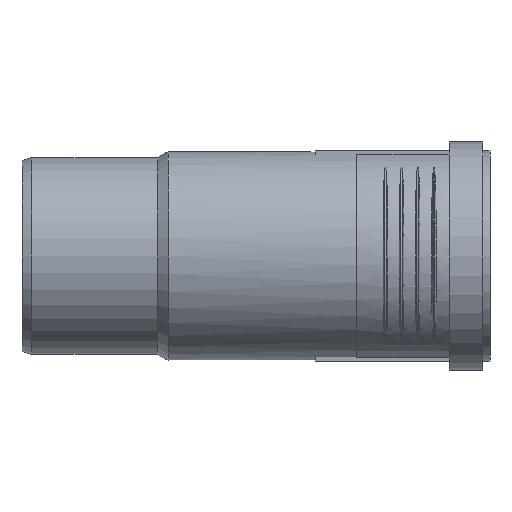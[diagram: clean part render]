
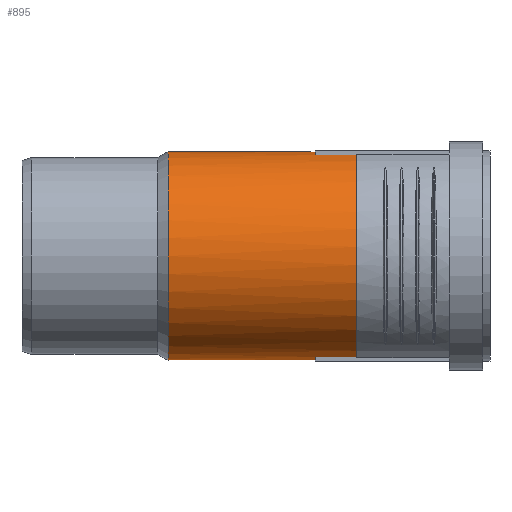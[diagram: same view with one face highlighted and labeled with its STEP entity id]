
A CAD part, front view. The second image highlights one B-rep face of the part: STEP entity #895.
In plain terms, the highlighted cylindrical face has radius 48.4 mm (diameter 96.8 mm), a full revolution.
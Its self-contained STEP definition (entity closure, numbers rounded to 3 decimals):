
#86=LINE($,#1239,#114);
#95=LINE($,#1259,#123);
#104=LINE($,#2137,#132);
#110=LINE($,#2150,#138);
#114=VECTOR($,#1024,19.25);
#123=VECTOR($,#1039,19.25);
#132=VECTOR($,#1072,19.25);
#138=VECTOR($,#1084,19.25);
#143=CYLINDRICAL_SURFACE($,#980,48.4);
#181=FACE_BOUND($,#298,.T.);
#234=FACE_OUTER_BOUND($,#297,.T.);
#297=EDGE_LOOP($,(#763,#764,#765,#766,#767,#768,#769,#770));
#298=EDGE_LOOP($,(#771));
#326=CIRCLE($,#920,48.4);
#332=CIRCLE($,#932,48.4);
#333=CIRCLE($,#935,48.4);
#350=CIRCLE($,#979,48.4);
#351=CIRCLE($,#981,48.4);
#368=VERTEX_POINT($,#1236);
#369=VERTEX_POINT($,#1238);
#372=VERTEX_POINT($,#1246);
#377=VERTEX_POINT($,#1258);
#433=VERTEX_POINT($,#2132);
#434=VERTEX_POINT($,#2136);
#436=VERTEX_POINT($,#2142);
#438=VERTEX_POINT($,#2149);
#439=VERTEX_POINT($,#2194);
#456=EDGE_CURVE($,#369,#368,#86,.T.);
#460=EDGE_CURVE($,#372,#369,#326,.T.);
#466=EDGE_CURVE($,#377,#372,#95,.T.);
#527=EDGE_CURVE($,#377,#433,#332,.T.);
#529=EDGE_CURVE($,#434,#433,#104,.T.);
#532=EDGE_CURVE($,#436,#434,#333,.T.);
#536=EDGE_CURVE($,#438,#436,#110,.T.);
#554=EDGE_CURVE($,#439,#439,#350,.T.);
#555=EDGE_CURVE($,#438,#368,#351,.T.);
#763=ORIENTED_EDGE($,*,*,#456,.T.);
#764=ORIENTED_EDGE($,*,*,#555,.F.);
#765=ORIENTED_EDGE($,*,*,#536,.T.);
#766=ORIENTED_EDGE($,*,*,#532,.T.);
#767=ORIENTED_EDGE($,*,*,#529,.T.);
#768=ORIENTED_EDGE($,*,*,#527,.F.);
#769=ORIENTED_EDGE($,*,*,#466,.T.);
#770=ORIENTED_EDGE($,*,*,#460,.T.);
#771=ORIENTED_EDGE($,*,*,#554,.T.);
#895=ADVANCED_FACE($,(#234,#181),#143,.T.);
#920=AXIS2_PLACEMENT_3D($,#1247,#1030,#1031);
#932=AXIS2_PLACEMENT_3D($,#2133,#1067,#1068);
#935=AXIS2_PLACEMENT_3D($,#2143,#1077,#1078);
#979=AXIS2_PLACEMENT_3D($,#2195,#1170,#1171);
#980=AXIS2_PLACEMENT_3D($,#2196,#1172,#1173);
#981=AXIS2_PLACEMENT_3D($,#2197,#1174,#1175);
#1024=DIRECTION($,(1.,0.,0.));
#1030=DIRECTION('center_axis',(-1.,0.,0.));
#1031=DIRECTION('ref_axis',(0.,1.,0.));
#1039=DIRECTION($,(-1.,0.,0.));
#1067=DIRECTION('center_axis',(1.,0.,0.));
#1068=DIRECTION('ref_axis',(0.,1.,0.));
#1072=DIRECTION($,(1.,0.,0.));
#1077=DIRECTION('center_axis',(-1.,0.,0.));
#1078=DIRECTION('ref_axis',(0.,1.,0.));
#1084=DIRECTION($,(-1.,0.,0.));
#1170=DIRECTION('center_axis',(1.,0.,0.));
#1171=DIRECTION('ref_axis',(0.,1.,0.));
#1172=DIRECTION('center_axis',(1.,0.,0.));
#1173=DIRECTION('ref_axis',(0.,1.,0.));
#1174=DIRECTION('center_axis',(1.,0.,0.));
#1175=DIRECTION('ref_axis',(0.,1.,0.));
#1236=CARTESIAN_POINT('',(155.2,12.5,46.758));
#1238=CARTESIAN_POINT('',(135.95,12.5,46.758));
#1239=CARTESIAN_POINT($,(111.458,12.5,46.758));
#1246=CARTESIAN_POINT('',(135.95,-12.5,46.758));
#1247=CARTESIAN_POINT('Origin',(135.95,0.,0.));
#1258=CARTESIAN_POINT('',(155.2,-12.5,46.758));
#1259=CARTESIAN_POINT($,(111.458,-12.5,46.758));
#2132=CARTESIAN_POINT('',(155.2,-12.5,-46.758));
#2133=CARTESIAN_POINT('Origin',(155.2,0.,0.));
#2136=CARTESIAN_POINT('',(135.95,-12.5,-46.758));
#2137=CARTESIAN_POINT($,(111.458,-12.5,-46.758));
#2142=CARTESIAN_POINT('',(135.95,12.5,-46.758));
#2143=CARTESIAN_POINT('Origin',(135.95,0.,0.));
#2149=CARTESIAN_POINT('',(155.2,12.5,-46.758));
#2150=CARTESIAN_POINT($,(111.458,12.5,-46.758));
#2194=CARTESIAN_POINT('',(67.716,48.4,0.));
#2195=CARTESIAN_POINT('Origin',(67.716,0.,0.));
#2196=CARTESIAN_POINT('Origin',(111.458,0.,0.));
#2197=CARTESIAN_POINT('Origin',(155.2,0.,0.));
